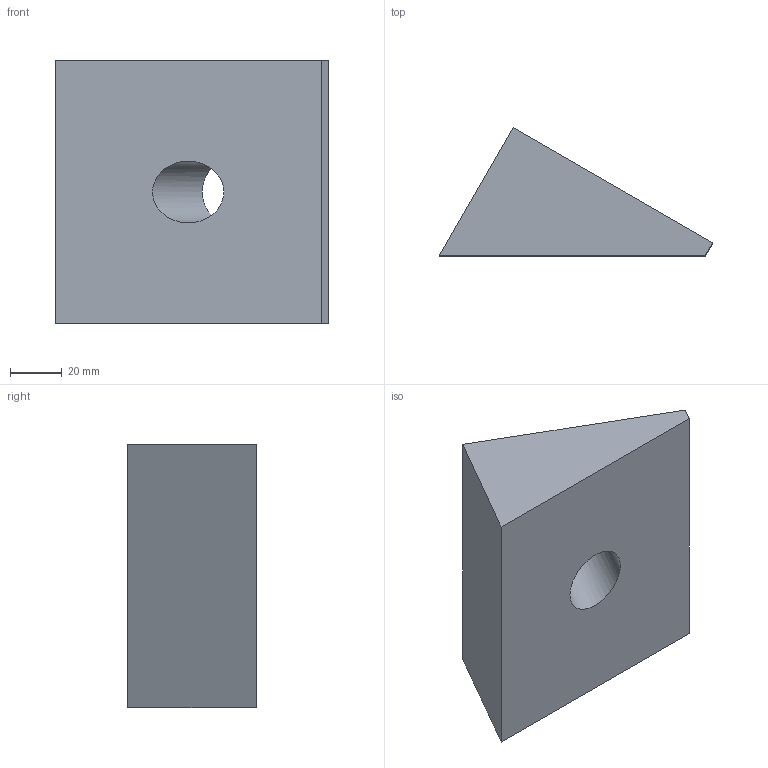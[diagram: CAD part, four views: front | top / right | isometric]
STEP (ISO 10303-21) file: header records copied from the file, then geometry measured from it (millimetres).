
FILE_DESCRIPTION (( 'STEP AP214' ), '1' );
FILE_NAME ('D24-206-BW.STEP', '2025-01-09T19:43:29', ( '' ), ( '' ), 'SwSTEP 2.0', 'SolidWorks 2024', '' );
FILE_SCHEMA (( 'AUTOMOTIVE_DESIGN' ));
Length unit declared in the file: inch
Products named in the file (1): D24-206-BW
Bounding box: 105.56 x 49.49 x 101.6 mm (x, y, z)
Volume: 270373.6 mm3; surface area: 32854.1 mm2
Topology: 1 solids, 1 shells, 7 faces, 16 edges, 11 vertices
Faces by surface type: plane 6, cylinder 1
Full cylindrical faces by diameter (mm): 23.812 x1
Entity records: 219 total; most frequent: CARTESIAN_POINT 38, DIRECTION 30, ORIENTED_EDGE 28, EDGE_CURVE 14, LINE 12, VECTOR 12, VERTEX_POINT 10, EDGE_LOOP 10
